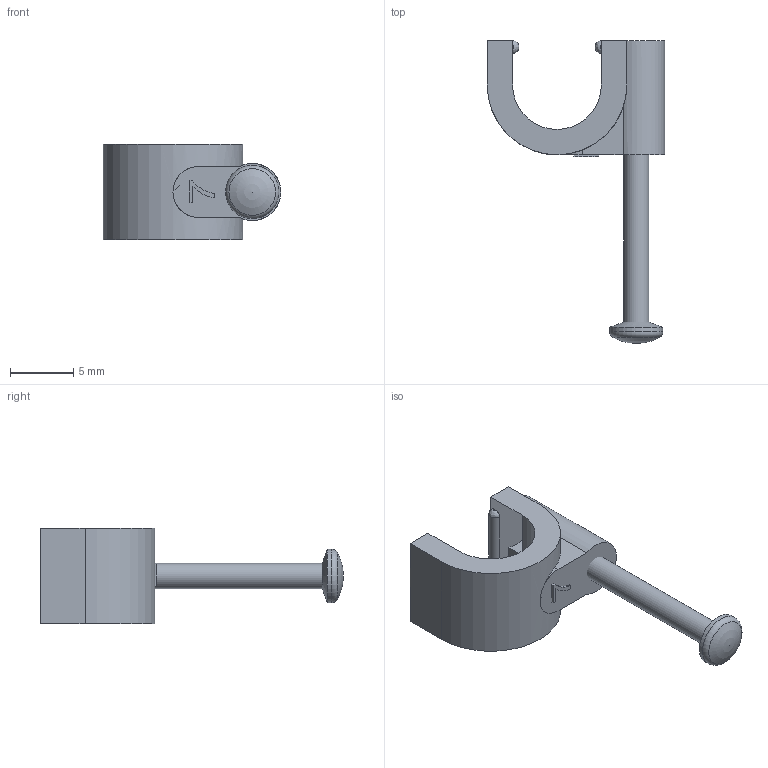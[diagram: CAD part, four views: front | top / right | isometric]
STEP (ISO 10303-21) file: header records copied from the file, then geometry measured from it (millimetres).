
FILE_DESCRIPTION(/* description */ (''),/* implementation_level */ '2;1');
FILE_NAME(/* name */ '4010630.stp',/* time_stamp */ '2018-09-12T08:13:27+02:00',/* author */ (''),/* organization */ (''),/* preprocessor_version */ 'ST-DEVELOPER v16.7',/* originating_system */ 'SIEMENS PLM Software NX 12.0',/* authorisation */ '');
FILE_SCHEMA (('AUTOMOTIVE_DESIGN { 1 0 10303 214 3 1 1 1 }'));
Length unit declared in the file: millimetre
Products named in the file (1): 4010630_LINKEDEXT_jt
Bounding box: 14 x 23.86 x 7.5 mm (x, y, z)
Surface area: 645.9 mm2 (no closed solid volume)
Topology: 0 solids, 3 shells, 37 faces, 112 edges, 76 vertices
Faces by surface type: plane 14, cylinder 9, extrusion 6, bspline 4, cone 2, torus 1, sphere 1
Full cylindrical faces by diameter (mm): 2 x1, 4.2 x1
Entity records: 1329 total; most frequent: CARTESIAN_POINT 390, DIRECTION 171, ORIENTED_EDGE 165, EDGE_CURVE 102, VERTEX_POINT 73, AXIS2_PLACEMENT_3D 59, VECTOR 53, LINE 47
